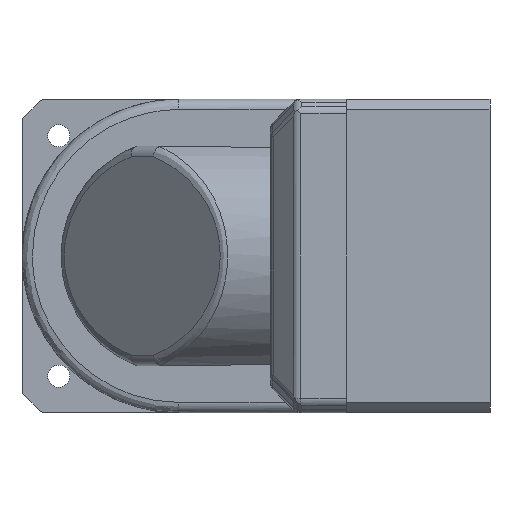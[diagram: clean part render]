
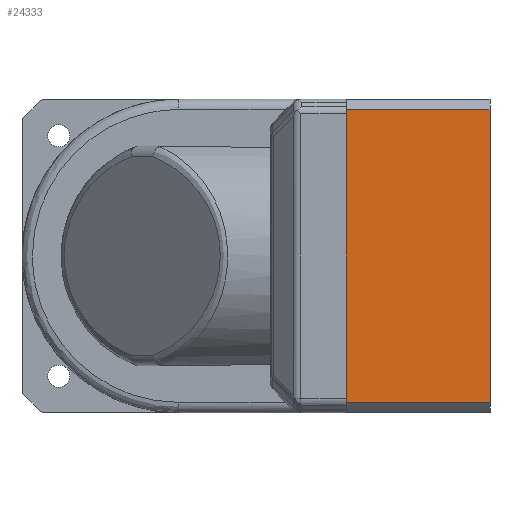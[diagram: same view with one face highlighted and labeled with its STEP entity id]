
A CAD part, front view. The second image highlights one B-rep face of the part: STEP entity #24333.
In plain terms, the highlighted planar face has unit normal (0, -1, 0).
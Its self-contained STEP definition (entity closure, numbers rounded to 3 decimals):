
#5471 = LINE ( 'NONE', #9754, #46407 ) ;
#6128 = CARTESIAN_POINT ( 'NONE',  ( -60., -60., -55. ) ) ;
#9754 = CARTESIAN_POINT ( 'NONE',  ( -55.893, -60., -55. ) ) ;
#10315 = ORIENTED_EDGE ( 'NONE', *, *, #22483, .T. ) ;
#11378 = EDGE_CURVE ( 'NONE', #47925, #12064, #5471, .T. ) ;
#11862 = EDGE_CURVE ( 'NONE', #12064, #20937, #18025, .T. ) ;
#12064 = VERTEX_POINT ( 'NONE', #25174 ) ;
#15111 = CARTESIAN_POINT ( 'NONE',  ( 0., -60., -55. ) ) ;
#15604 = CARTESIAN_POINT ( 'NONE',  ( 0., -60., 0. ) ) ;
#15955 = VECTOR ( 'NONE', #19853, 1000. ) ;
#17443 = ORIENTED_EDGE ( 'NONE', *, *, #11378, .T. ) ;
#18025 = LINE ( 'NONE', #15111, #51568 ) ;
#19853 = DIRECTION ( 'NONE',  ( -1., 0., 0. ) ) ;
#20937 = VERTEX_POINT ( 'NONE', #45718 ) ;
#22483 = EDGE_CURVE ( 'NONE', #31187, #47925, #49520, .T. ) ;
#23376 = DIRECTION ( 'NONE',  ( 0., 0., -1. ) ) ;
#23516 = ORIENTED_EDGE ( 'NONE', *, *, #30098, .F. ) ;
#24333 = ADVANCED_FACE ( 'NONE', ( #50658 ), #48376, .T. ) ;
#24898 = CARTESIAN_POINT ( 'NONE',  ( -55.893, -60., 0. ) ) ;
#25174 = CARTESIAN_POINT ( 'NONE',  ( -55.893, -60., -55. ) ) ;
#30098 = EDGE_CURVE ( 'NONE', #31187, #20937, #41643, .T. ) ;
#31187 = VERTEX_POINT ( 'NONE', #39832 ) ;
#37887 = CARTESIAN_POINT ( 'NONE',  ( 55.893, -60., 0. ) ) ;
#39236 = DIRECTION ( 'NONE',  ( 0., 0., -1. ) ) ;
#39832 = CARTESIAN_POINT ( 'NONE',  ( 55.893, -60., 0. ) ) ;
#40326 = VECTOR ( 'NONE', #42158, 1000. ) ;
#41643 = LINE ( 'NONE', #37887, #40326 ) ;
#42158 = DIRECTION ( 'NONE',  ( 0., 0., -1. ) ) ;
#43074 = AXIS2_PLACEMENT_3D ( 'NONE', #6128, #48559, #23376 ) ;
#44561 = DIRECTION ( 'NONE',  ( 1., 0., 0. ) ) ;
#45718 = CARTESIAN_POINT ( 'NONE',  ( 55.893, -60., -55. ) ) ;
#46407 = VECTOR ( 'NONE', #39236, 1000. ) ;
#47925 = VERTEX_POINT ( 'NONE', #24898 ) ;
#48376 = PLANE ( 'NONE',  #43074 ) ;
#48559 = DIRECTION ( 'NONE',  ( 0., -1., 0. ) ) ;
#49520 = LINE ( 'NONE', #15604, #15955 ) ;
#49521 = EDGE_LOOP ( 'NONE', ( #17443, #53388, #23516, #10315 ) ) ;
#50658 = FACE_OUTER_BOUND ( 'NONE', #49521, .T. ) ;
#51568 = VECTOR ( 'NONE', #44561, 1000. ) ;
#53388 = ORIENTED_EDGE ( 'NONE', *, *, #11862, .T. ) ;
